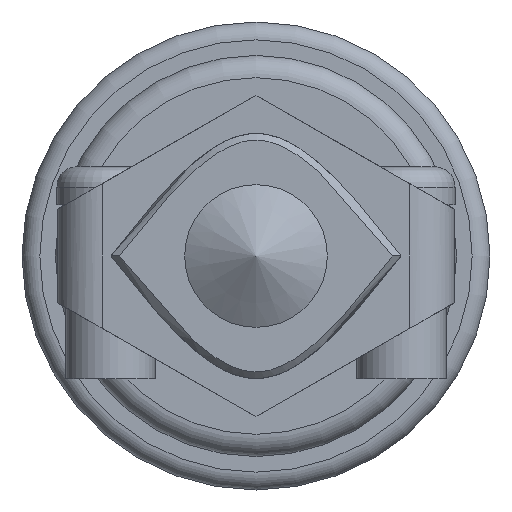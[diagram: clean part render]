
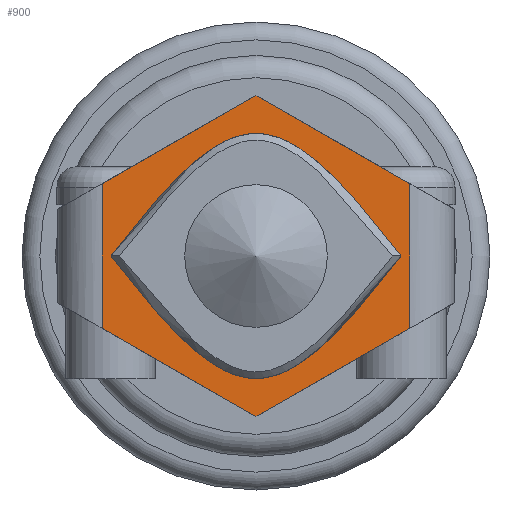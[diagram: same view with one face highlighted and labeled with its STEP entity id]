
A CAD part, left-side view. The second image highlights one B-rep face of the part: STEP entity #900.
In plain terms, the highlighted planar face has unit normal (-1, 0, 0).
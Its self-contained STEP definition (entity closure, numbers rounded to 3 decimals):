
#39 = ORIENTED_EDGE ( 'NONE', *, *, #468, .T. ) ;
#43 = ORIENTED_EDGE ( 'NONE', *, *, #1351, .F. ) ;
#50 = EDGE_LOOP ( 'NONE', ( #43, #1337 ) ) ;
#86 = ORIENTED_EDGE ( 'NONE', *, *, #2016, .T. ) ;
#179 = CARTESIAN_POINT ( 'NONE',  ( 111.838, 47.906, 57.961 ) ) ;
#189 = VERTEX_POINT ( 'NONE', #2328 ) ;
#196 = DIRECTION ( 'NONE',  ( 0., 0., 1. ) ) ;
#232 = VERTEX_POINT ( 'NONE', #2340 ) ;
#272 = CARTESIAN_POINT ( 'NONE',  ( 111.838, 47.506, 61.207 ) ) ;
#280 = ORIENTED_EDGE ( 'NONE', *, *, #713, .T. ) ;
#468 = EDGE_CURVE ( 'NONE', #961, #536, #800, .T. ) ;
#479 = LINE ( 'NONE', #878, #1281 ) ;
#496 = CARTESIAN_POINT ( 'NONE',  ( 111.838, 47.906, 57.961 ) ) ;
#536 = VERTEX_POINT ( 'NONE', #272 ) ;
#550 = PLANE ( 'NONE',  #1703 ) ;
#713 = EDGE_CURVE ( 'NONE', #189, #961, #2070, .T. ) ;
#775 = VECTOR ( 'NONE', #1615, 1000. ) ;
#796 = CARTESIAN_POINT ( 'NONE',  ( 111.838, 47.906, 57.961 ) ) ;
#799 = CARTESIAN_POINT ( 'NONE',  ( 111.838, 47.506, 54.714 ) ) ;
#800 = LINE ( 'NONE', #1740, #1488 ) ;
#816 = DIRECTION ( 'NONE',  ( 0., -0.868, 0.497 ) ) ;
#817 = EDGE_CURVE ( 'NONE', #536, #2260, #479, .T. ) ;
#858 = EDGE_CURVE ( 'NONE', #232, #860, #1458, .T. ) ;
#860 = VERTEX_POINT ( 'NONE', #1778 ) ;
#878 = CARTESIAN_POINT ( 'NONE',  ( 111.838, 45.506, 60.061 ) ) ;
#900 = ADVANCED_FACE ( 'NONE', ( #2230, #1694 ), #550, .F. ) ;
#927 = VECTOR ( 'NONE', #2063, 1000. ) ;
#949 = CARTESIAN_POINT ( 'NONE',  ( 111.838, 58.74, 55.211 ) ) ;
#950 = ORIENTED_EDGE ( 'NONE', *, *, #817, .T. ) ;
#961 = VERTEX_POINT ( 'NONE', #799 ) ;
#985 = EDGE_LOOP ( 'NONE', ( #280, #39, #950, #1394, #2389, #86 ) ) ;
#1040 = VECTOR ( 'NONE', #1813, 1000. ) ;
#1070 = CARTESIAN_POINT ( 'NONE',  ( 111.838, 60.906, 57.961 ) ) ;
#1075 = DIRECTION ( 'NONE',  ( 0., 0.868, 0.497 ) ) ;
#1079 = CARTESIAN_POINT ( 'NONE',  ( 111.838, 54.406, 65.161 ) ) ;
#1104 = CARTESIAN_POINT ( 'NONE',  ( 111.838, 63.306, 55.861 ) ) ;
#1143 = VERTEX_POINT ( 'NONE', #1070 ) ;
#1159 = CARTESIAN_POINT ( 'NONE',  ( 111.838, 45.506, 55.861 ) ) ;
#1212 = CARTESIAN_POINT ( 'NONE',  ( 111.838, 54.406, 66.211 ) ) ;
#1281 = VECTOR ( 'NONE', #1075, 1000. ) ;
#1316 = CARTESIAN_POINT ( 'NONE',  ( 111.838, 50.073, 55.211 ) ) ;
#1331 = EDGE_CURVE ( 'NONE', #2260, #232, #1528, .T. ) ;
#1332 = DIRECTION ( 'NONE',  ( 1., 0., 0. ) ) ;
#1337 = ORIENTED_EDGE ( 'NONE', *, *, #1775, .F. ) ;
#1342 = CARTESIAN_POINT ( 'NONE',  ( 111.838, 63.306, 60.061 ) ) ;
#1351 = EDGE_CURVE ( 'NONE', #1143, #2270, #2121, .T. ) ;
#1394 = ORIENTED_EDGE ( 'NONE', *, *, #1331, .T. ) ;
#1415 = B_SPLINE_CURVE_WITH_KNOTS ( 'NONE', 3,
 ( #496, #2151, #1212, #2140, #2115 ),
 .UNSPECIFIED., .F., .F.,
 ( 4, 1, 4 ),
 ( 0., 0.5, 1. ),
 .UNSPECIFIED. ) ;
#1436 = CARTESIAN_POINT ( 'NONE',  ( 111.838, 61.306, 60.061 ) ) ;
#1441 = LINE ( 'NONE', #1104, #1040 ) ;
#1458 = LINE ( 'NONE', #1436, #775 ) ;
#1488 = VECTOR ( 'NONE', #2254, 1000. ) ;
#1507 = VECTOR ( 'NONE', #816, 1000. ) ;
#1528 = LINE ( 'NONE', #1342, #927 ) ;
#1615 = DIRECTION ( 'NONE',  ( 0., 0., -1. ) ) ;
#1694 = FACE_BOUND ( 'NONE', #50, .T. ) ;
#1703 = AXIS2_PLACEMENT_3D ( 'NONE', #1859, #1332, #196 ) ;
#1740 = CARTESIAN_POINT ( 'NONE',  ( 111.838, 47.506, 60.061 ) ) ;
#1775 = EDGE_CURVE ( 'NONE', #2270, #1143, #1415, .T. ) ;
#1778 = CARTESIAN_POINT ( 'NONE',  ( 111.838, 61.306, 54.714 ) ) ;
#1813 = DIRECTION ( 'NONE',  ( 0., -0.868, -0.497 ) ) ;
#1859 = CARTESIAN_POINT ( 'NONE',  ( 111.838, 63.306, 60.061 ) ) ;
#2016 = EDGE_CURVE ( 'NONE', #860, #189, #1441, .T. ) ;
#2063 = DIRECTION ( 'NONE',  ( 0., 0.868, -0.497 ) ) ;
#2070 = LINE ( 'NONE', #1159, #1507 ) ;
#2076 = CARTESIAN_POINT ( 'NONE',  ( 111.838, 54.406, 49.711 ) ) ;
#2115 = CARTESIAN_POINT ( 'NONE',  ( 111.838, 60.906, 57.961 ) ) ;
#2121 = B_SPLINE_CURVE_WITH_KNOTS ( 'NONE', 3,
 ( #2237, #949, #2076, #1316, #796 ),
 .UNSPECIFIED., .F., .F.,
 ( 4, 1, 4 ),
 ( 0., 0.5, 1. ),
 .UNSPECIFIED. ) ;
#2140 = CARTESIAN_POINT ( 'NONE',  ( 111.838, 58.74, 60.711 ) ) ;
#2151 = CARTESIAN_POINT ( 'NONE',  ( 111.838, 50.073, 60.711 ) ) ;
#2230 = FACE_OUTER_BOUND ( 'NONE', #985, .T. ) ;
#2237 = CARTESIAN_POINT ( 'NONE',  ( 111.838, 60.906, 57.961 ) ) ;
#2254 = DIRECTION ( 'NONE',  ( 0., 0., 1. ) ) ;
#2260 = VERTEX_POINT ( 'NONE', #1079 ) ;
#2270 = VERTEX_POINT ( 'NONE', #179 ) ;
#2328 = CARTESIAN_POINT ( 'NONE',  ( 111.838, 54.406, 50.761 ) ) ;
#2340 = CARTESIAN_POINT ( 'NONE',  ( 111.838, 61.306, 61.207 ) ) ;
#2389 = ORIENTED_EDGE ( 'NONE', *, *, #858, .T. ) ;
